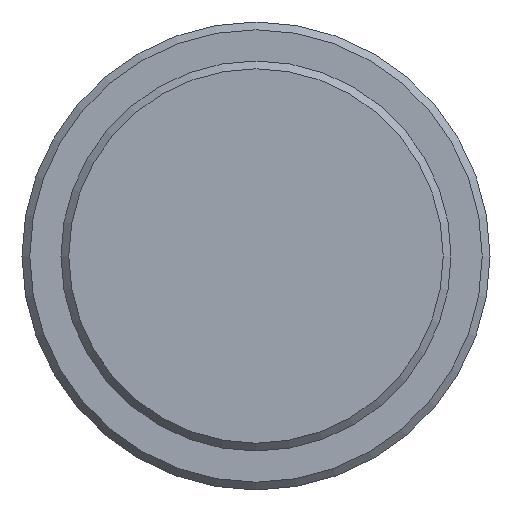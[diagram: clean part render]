
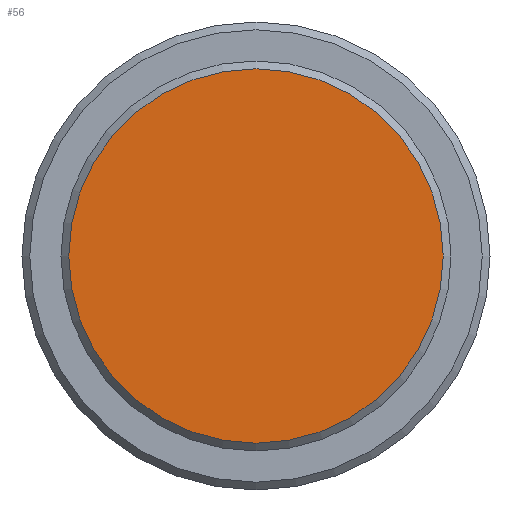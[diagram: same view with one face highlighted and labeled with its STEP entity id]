
A CAD part, left-side view. The second image highlights one B-rep face of the part: STEP entity #56.
In plain terms, the highlighted planar face has unit normal (-1, 0, 0).
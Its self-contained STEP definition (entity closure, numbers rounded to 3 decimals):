
#39=FACE_OUTER_BOUND('',#123,.T.);
#44=PLANE('',#254);
#56=ADVANCED_FACE('',(#39),#44,.F.);
#123=EDGE_LOOP('',(#159));
#159=ORIENTED_EDGE('',*,*,#208,.T.);
#190=VERTEX_POINT('',#378);
#208=EDGE_CURVE('',#190,#190,#226,.T.);
#226=CIRCLE('',#253,12.);
#253=AXIS2_PLACEMENT_3D('',#377,#310,#311);
#254=AXIS2_PLACEMENT_3D('',#379,#312,#313);
#310=DIRECTION('',(-1.,0.,0.));
#311=DIRECTION('',(0.,0.,-1.));
#312=DIRECTION('',(1.,0.,0.));
#313=DIRECTION('',(0.,0.,-1.));
#377=CARTESIAN_POINT('',(-320.,0.,0.));
#378=CARTESIAN_POINT('',(-320.,0.,-12.));
#379=CARTESIAN_POINT('',(-320.,0.,0.));
